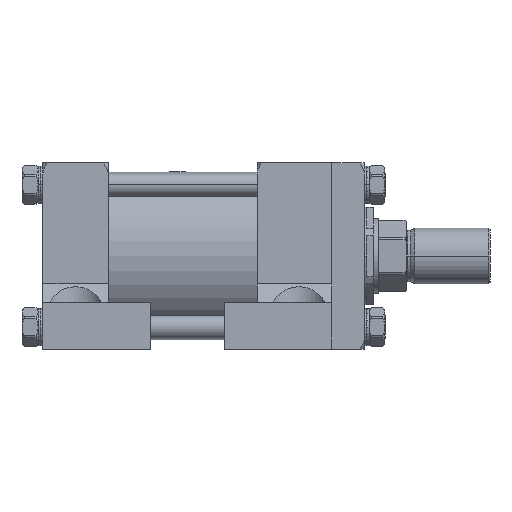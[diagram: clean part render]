
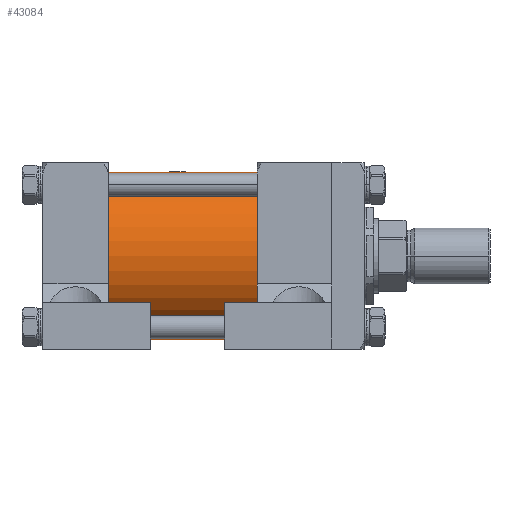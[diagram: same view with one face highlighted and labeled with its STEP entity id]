
A CAD part, front view. The second image highlights one B-rep face of the part: STEP entity #43084.
In plain terms, the highlighted cylindrical face has radius 57.15 mm (diameter 114.3 mm), a partial arc.
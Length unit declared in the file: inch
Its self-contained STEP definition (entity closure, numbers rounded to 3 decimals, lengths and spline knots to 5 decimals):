
#262 = ORIENTED_EDGE ( 'NONE', *, *, #35099, .T. ) ;
#394 = AXIS2_PLACEMENT_3D ( 'NONE', #34312, #19659, #33667 ) ;
#2498 = VERTEX_POINT ( 'NONE', #5436 ) ;
#3889 = EDGE_CURVE ( 'NONE', #8859, #43811, #12465, .T. ) ;
#5184 = CARTESIAN_POINT ( 'NONE',  ( -8.25, 0., 0. ) ) ;
#5436 = CARTESIAN_POINT ( 'NONE',  ( -3.75, 0., -2.25 ) ) ;
#7008 = DIRECTION ( 'NONE',  ( 1., 0., 0. ) ) ;
#8859 = VERTEX_POINT ( 'NONE', #60575 ) ;
#10113 = DIRECTION ( 'NONE',  ( 0., 0., -1. ) ) ;
#12465 = LINE ( 'NONE', #31536, #40890 ) ;
#16767 = LINE ( 'NONE', #41200, #54772 ) ;
#17418 = CARTESIAN_POINT ( 'NONE',  ( -8.25, 0., -2.25 ) ) ;
#19659 = DIRECTION ( 'NONE',  ( 1., 0., 0. ) ) ;
#21844 = CARTESIAN_POINT ( 'NONE',  ( -3.75, 0., 2.25 ) ) ;
#26298 = VERTEX_POINT ( 'NONE', #17418 ) ;
#26852 = AXIS2_PLACEMENT_3D ( 'NONE', #5184, #38296, #10113 ) ;
#30251 = CIRCLE ( 'NONE', #394, 2.25 ) ;
#31536 = CARTESIAN_POINT ( 'NONE',  ( -8.25, 0., 2.25 ) ) ;
#33667 = DIRECTION ( 'NONE',  ( 0., 1., 0. ) ) ;
#34312 = CARTESIAN_POINT ( 'NONE',  ( -8.25, 0., 0. ) ) ;
#35099 = EDGE_CURVE ( 'NONE', #26298, #2498, #16767, .T. ) ;
#35643 = CYLINDRICAL_SURFACE ( 'NONE', #26852, 2.25 ) ;
#38296 = DIRECTION ( 'NONE',  ( 1., 0., 0. ) ) ;
#40890 = VECTOR ( 'NONE', #50486, 39.37008 ) ;
#41200 = CARTESIAN_POINT ( 'NONE',  ( -8.25, 0., -2.25 ) ) ;
#42463 = EDGE_LOOP ( 'NONE', ( #53575, #53438, #262, #55846 ) ) ;
#43084 = ADVANCED_FACE ( 'NONE', ( #54653 ), #35643, .T. ) ;
#43811 = VERTEX_POINT ( 'NONE', #21844 ) ;
#44744 = CARTESIAN_POINT ( 'NONE',  ( -3.75, 0., 0. ) ) ;
#50486 = DIRECTION ( 'NONE',  ( 1., 0., 0. ) ) ;
#53438 = ORIENTED_EDGE ( 'NONE', *, *, #55258, .T. ) ;
#53575 = ORIENTED_EDGE ( 'NONE', *, *, #3889, .F. ) ;
#54653 = FACE_OUTER_BOUND ( 'NONE', #42463, .T. ) ;
#54772 = VECTOR ( 'NONE', #59561, 39.37008 ) ;
#55258 = EDGE_CURVE ( 'NONE', #8859, #26298, #30251, .T. ) ;
#55846 = ORIENTED_EDGE ( 'NONE', *, *, #57727, .F. ) ;
#55909 = AXIS2_PLACEMENT_3D ( 'NONE', #44744, #7008, #59452 ) ;
#57727 = EDGE_CURVE ( 'NONE', #43811, #2498, #61077, .T. ) ;
#59452 = DIRECTION ( 'NONE',  ( 0., 1., 0. ) ) ;
#59561 = DIRECTION ( 'NONE',  ( 1., 0., 0. ) ) ;
#60575 = CARTESIAN_POINT ( 'NONE',  ( -8.25, 0., 2.25 ) ) ;
#61077 = CIRCLE ( 'NONE', #55909, 2.25 ) ;
